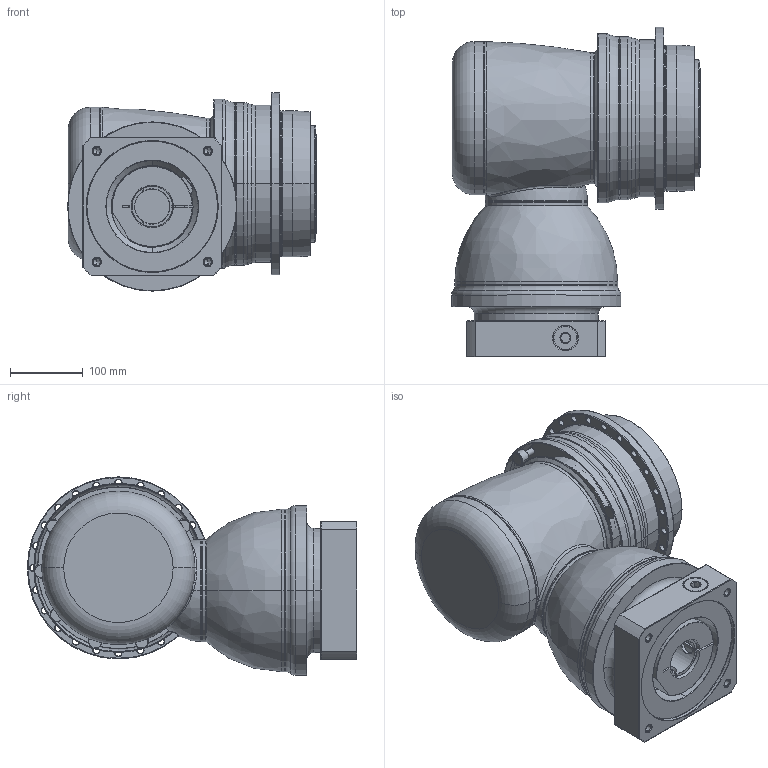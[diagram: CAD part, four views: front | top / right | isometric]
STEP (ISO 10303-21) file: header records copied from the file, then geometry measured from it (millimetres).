
FILE_DESCRIPTION((''),'2;1');
FILE_NAME('APK200_2ST_48-P0409B10201_ASM','2018-06-12T',('D00080'),(''),'PRO/ENGINEER BY PARAMETRIC TECHNOLOGY CORPORATION, 2008170','PRO/ENGINEER BY PARAMETRIC TECHNOLOGY CORPORATION, 2008170','');
FILE_SCHEMA(('CONFIG_CONTROL_DESIGN'));
Length unit declared in the file: millimetre
Products named in the file (13): P1008600002; P1802610011; P0278601003; P0359601103; P1211600001; P1315600001; P1007601001; P1318610401; P0503B00016; P0912654001; P0409B10201; 21711426021; APK200_2ST_48-P0409B10201_ASM
Assembly tree (12 placements, depth 2):
  APK200_2ST_48-P0409B10201_ASM
    P1008600002
    P1802610011
    P0278601003
    P0359601103
    P1211600001
    P1315600001
    P1007601001
    P1318610401
    P0503B00016
    P0912654001
    P0409B10201
    21711426021
Bounding box: 341 x 451.25 x 271.75 mm (x, y, z)
Volume: 18561044.6 mm3; surface area: 1249558.1 mm2
Topology: 13 solids, 38 shells, 872 faces, 2041 edges, 1241 vertices
Faces by surface type: cylinder 358, cone 236, plane 153, torus 90, bspline 33, sphere 2
Entity records: 31756 total; most frequent: CARTESIAN_POINT 11075, DIRECTION 4767, ORIENTED_EDGE 3892, AXIS2_PLACEMENT_3D 2054, EDGE_CURVE 1997, VERTEX_POINT 1241, CIRCLE 1180, EDGE_LOOP 1026
